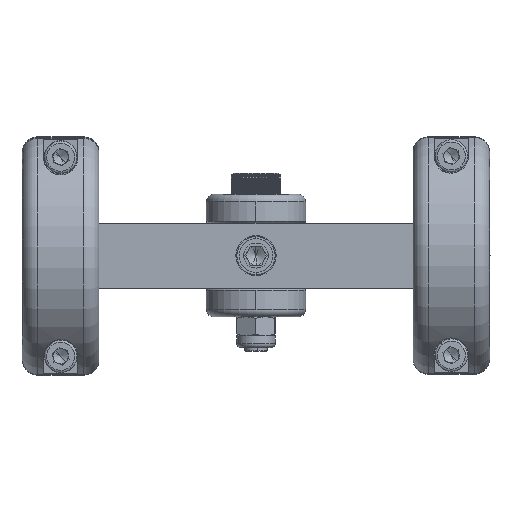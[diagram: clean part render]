
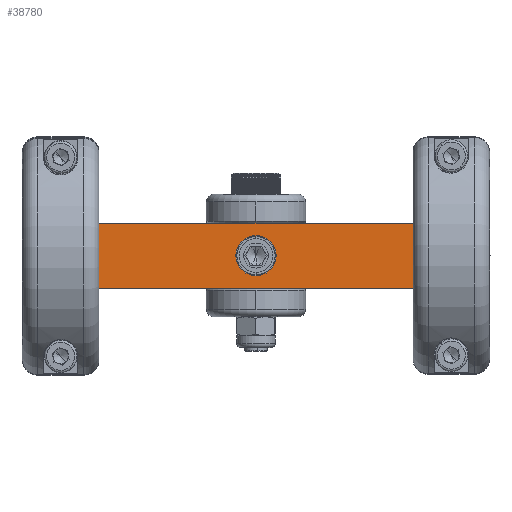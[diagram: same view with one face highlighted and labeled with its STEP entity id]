
A CAD part, front view. The second image highlights one B-rep face of the part: STEP entity #38780.
In plain terms, the highlighted planar face has unit normal (0, -1, 0) as drawn and (0, 0, -1) by its records, which use the part's own axes.
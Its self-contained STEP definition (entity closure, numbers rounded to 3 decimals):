
#38143=DIRECTION('',(0.,-1.,0.));
#38144=VECTOR('',#38143,90.);
#38145=CARTESIAN_POINT('',(17.,0.,0.));
#38146=LINE('',#38145,#38144);
#38150=DIRECTION('',(1.,0.,0.));
#38151=VECTOR('',#38150,17.);
#38152=CARTESIAN_POINT('',(0.,0.,0.));
#38153=LINE('',#38152,#38151);
#38157=DIRECTION('',(0.,1.,0.));
#38158=VECTOR('',#38157,90.);
#38159=CARTESIAN_POINT('',(0.,-90.,0.));
#38160=LINE('',#38159,#38158);
#38164=DIRECTION('',(-1.,0.,0.));
#38165=VECTOR('',#38164,17.);
#38166=CARTESIAN_POINT('',(17.,-90.,0.));
#38167=LINE('',#38166,#38165);
#38171=CARTESIAN_POINT('',(8.5,-45.,0.));
#38172=DIRECTION('',(0.,0.,1.));
#38173=DIRECTION('',(1.,0.,0.));
#38174=AXIS2_PLACEMENT_3D('',#38171,#38172,#38173);
#38179=CARTESIAN_POINT('',(8.5,-45.,0.));
#38180=DIRECTION('',(0.,0.,1.));
#38181=DIRECTION('',(-1.,0.,0.));
#38182=AXIS2_PLACEMENT_3D('',#38179,#38180,#38181);
#38379=CARTESIAN_POINT('',(3.25,-45.,0.));
#38381=VERTEX_POINT('',#38379);
#38383=CARTESIAN_POINT('',(17.,0.,0.));
#38385=VERTEX_POINT('',#38383);
#38419=CARTESIAN_POINT('',(0.,0.,0.));
#38420=VERTEX_POINT('',#38419);
#38421=CARTESIAN_POINT('',(13.75,-45.,0.));
#38423=VERTEX_POINT('',#38421);
#38445=CARTESIAN_POINT('',(17.,-90.,0.));
#38446=CARTESIAN_POINT('',(0.,-90.,0.));
#38447=VERTEX_POINT('',#38445);
#38448=VERTEX_POINT('',#38446);
#38763=CARTESIAN_POINT('',(17.,0.,0.));
#38764=DIRECTION('',(0.,0.,-1.));
#38765=DIRECTION('',(-1.,0.,0.));
#38766=AXIS2_PLACEMENT_3D('',#38763,#38764,#38765);
#38767=PLANE('',#38766);
#38768=ORIENTED_EDGE('',*,*,#38583,.F.);
#38769=ORIENTED_EDGE('',*,*,#38680,.F.);
#38770=ORIENTED_EDGE('',*,*,#38746,.F.);
#38771=ORIENTED_EDGE('',*,*,#38548,.F.);
#38772=EDGE_LOOP('',(#38768,#38769,#38770,#38771));
#38773=FACE_OUTER_BOUND('',#38772,.F.);
#38775=ORIENTED_EDGE('',*,*,#38774,.F.);
#38777=ORIENTED_EDGE('',*,*,#38776,.F.);
#38778=EDGE_LOOP('',(#38775,#38777));
#38779=FACE_BOUND('',#38778,.F.);
#38175=CIRCLE('',#38174,5.25);
#38183=CIRCLE('',#38182,5.25);
#38548=EDGE_CURVE('',#38447,#38448,#38167,.T.);
#38583=EDGE_CURVE('',#38385,#38447,#38146,.T.);
#38680=EDGE_CURVE('',#38420,#38385,#38153,.T.);
#38746=EDGE_CURVE('',#38448,#38420,#38160,.T.);
#38774=EDGE_CURVE('',#38423,#38381,#38175,.T.);
#38776=EDGE_CURVE('',#38381,#38423,#38183,.T.);
#38780=ADVANCED_FACE('',(#38773,#38779),#38767,.T.);
